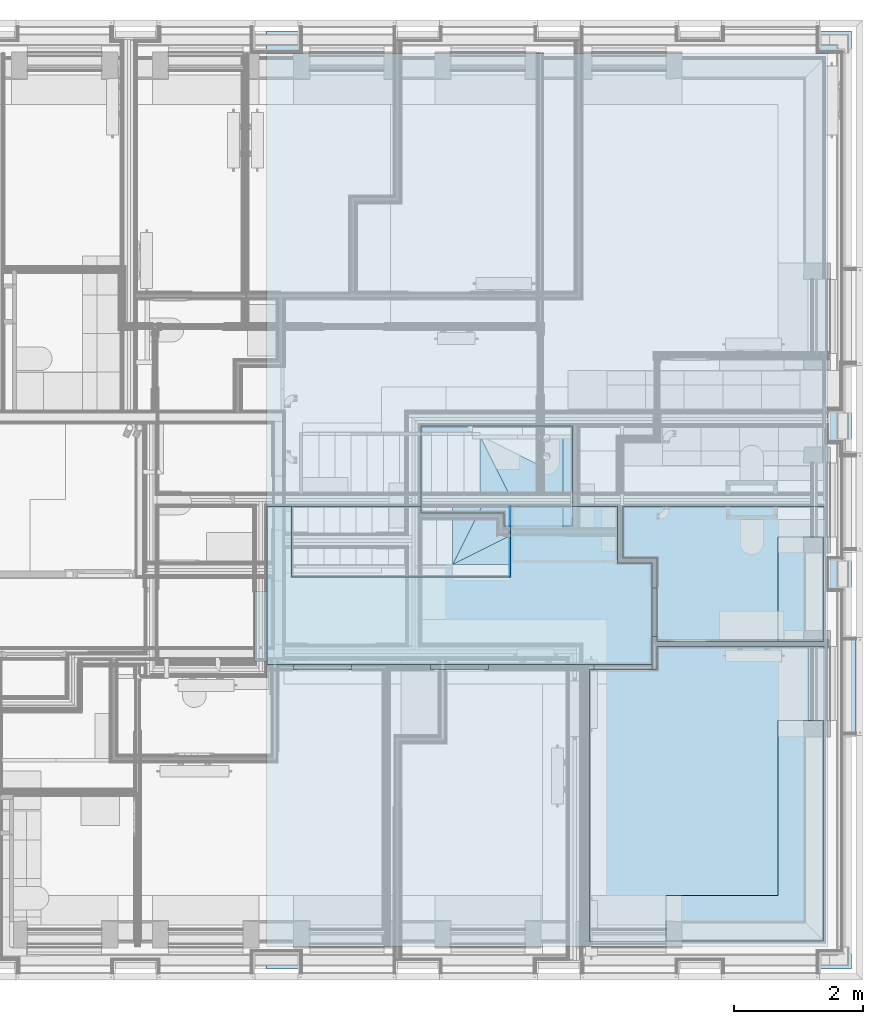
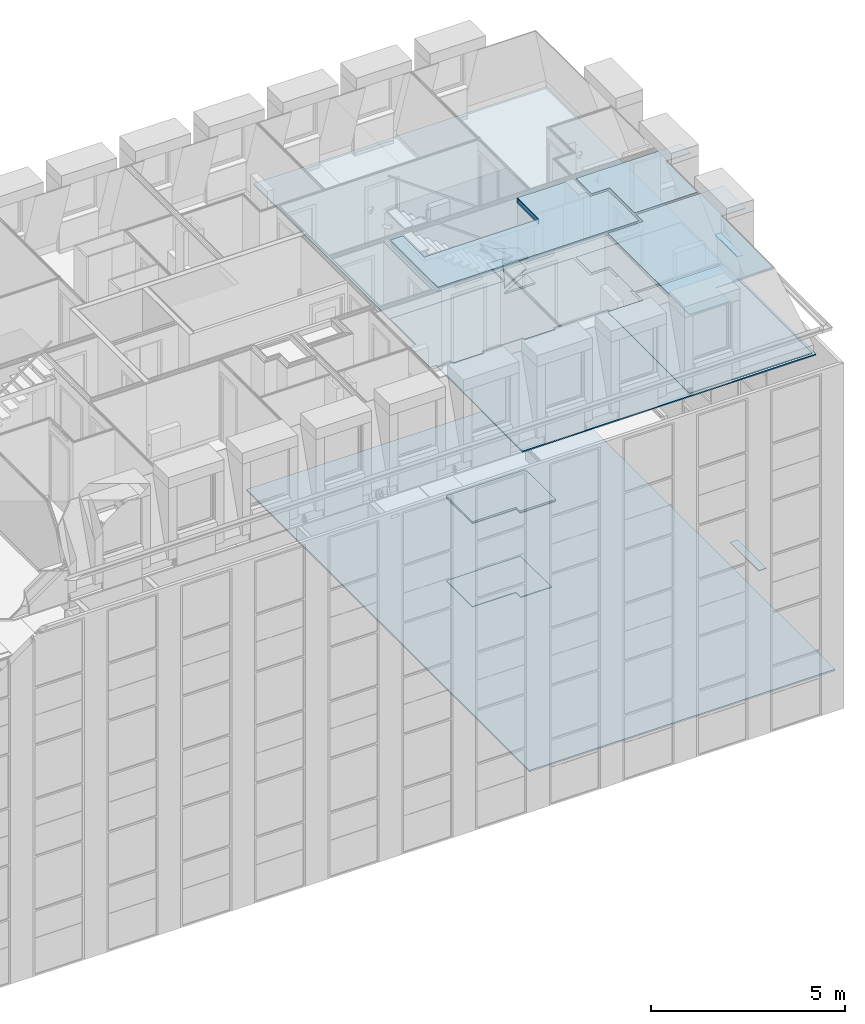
# One storey, part 78 of 169: 26 slabs.
"""IFC2X3 building model written with IfcOpenShell, lengths in metres."""

from ifc_helpers import new_model, entity, si_unit, converted_unit, derived_unit, money_unit, direction, frame, origin_with_axes, place, context, subcontext, project, spatial, faceted_brep, material, type_object, element, save


model = new_model("IFC2X3")

# Units and contexts
model_context = context("Model", 3, precision=1e-05, world=origin_with_axes(), true_north=direction((0.0, 1.0)))
body_context = subcontext(model_context, "Body", "Model", "MODEL_VIEW", scale=1.0)
ifc_project = project(units=[si_unit("LENGTHUNIT", "METRE"), si_unit("AREAUNIT", "SQUARE_METRE"), si_unit("VOLUMEUNIT", "CUBIC_METRE"), si_unit("ABSORBEDDOSEUNIT", "GRAY"), si_unit("AMOUNTOFSUBSTANCEUNIT", "MOLE"), si_unit("DOSEEQUIVALENTUNIT", "SIEVERT"), si_unit("ELECTRICCAPACITANCEUNIT", "FARAD"), si_unit("ELECTRICCHARGEUNIT", "COULOMB"), si_unit("ELECTRICCONDUCTANCEUNIT", "SIEMENS"), si_unit("ELECTRICCURRENTUNIT", "AMPERE"), si_unit("ELECTRICRESISTANCEUNIT", "OHM"), si_unit("ELECTRICVOLTAGEUNIT", "VOLT"), si_unit("ENERGYUNIT", "JOULE"), si_unit("FORCEUNIT", "NEWTON"), si_unit("FREQUENCYUNIT", "HERTZ"), si_unit("ILLUMINANCEUNIT", "LUX"), si_unit("INDUCTANCEUNIT", "HENRY"), si_unit("LUMINOUSFLUXUNIT", "LUMEN"), si_unit("LUMINOUSINTENSITYUNIT", "CANDELA"), si_unit("MAGNETICFLUXDENSITYUNIT", "TESLA"), si_unit("MAGNETICFLUXUNIT", "WEBER"), si_unit("MASSUNIT", "GRAM"), converted_unit("PLANEANGLEUNIT", "degree", entity("IfcReal", 0.0174532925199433), si_unit("PLANEANGLEUNIT", "RADIAN"), dimensions=[0, 0, 0, 0, 0, 0, 0]), si_unit("POWERUNIT", "WATT"), si_unit("PRESSUREUNIT", "PASCAL"), si_unit("RADIOACTIVITYUNIT", "BECQUEREL"), si_unit("SOLIDANGLEUNIT", "STERADIAN"), si_unit("THERMODYNAMICTEMPERATUREUNIT", "KELVIN"), si_unit("TIMEUNIT", "SECOND"), derived_unit("ACCELERATIONUNIT", [(si_unit("LENGTHUNIT", "METRE"), 1), (si_unit("TIMEUNIT", "SECOND"), -2)]), derived_unit("ANGULARVELOCITYUNIT", [(converted_unit("PLANEANGLEUNIT", "degree", entity("IfcReal", 0.0174532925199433), si_unit("PLANEANGLEUNIT", "RADIAN"), dimensions=[0, 0, 0, 0, 0, 0, 0]), 1), (si_unit("TIMEUNIT", "SECOND"), -1)]), derived_unit("CURVATUREUNIT", [(converted_unit("PLANEANGLEUNIT", "degree", entity("IfcReal", 0.0174532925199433), si_unit("PLANEANGLEUNIT", "RADIAN"), dimensions=[0, 0, 0, 0, 0, 0, 0]), 1), (si_unit("LENGTHUNIT", "METRE"), -1)]), derived_unit("DYNAMICVISCOSITYUNIT", [(si_unit("PRESSUREUNIT", "PASCAL"), 1), (si_unit("TIMEUNIT", "SECOND"), 1)]), derived_unit("HEATFLUXDENSITYUNIT", [(si_unit("POWERUNIT", "WATT"), 1), (si_unit("LENGTHUNIT", "METRE"), -2)]), derived_unit("HEATINGVALUEUNIT", [(si_unit("ENERGYUNIT", "JOULE"), 1), (si_unit("MASSUNIT", "GRAM"), -1)]), derived_unit("INTEGERCOUNTRATEUNIT", [(si_unit("TIMEUNIT", "SECOND"), -1)]), derived_unit("IONCONCENTRATIONUNIT", [(si_unit("MASSUNIT", "GRAM"), 1), (si_unit("VOLUMEUNIT", "CUBIC_METRE"), -1)]), derived_unit("ISOTHERMALMOISTURECAPACITYUNIT", [(si_unit("VOLUMEUNIT", "CUBIC_METRE"), 1), (si_unit("MASSUNIT", "GRAM"), -1)]), derived_unit("KINEMATICVISCOSITYUNIT", [(si_unit("AREAUNIT", "SQUARE_METRE"), 1), (si_unit("TIMEUNIT", "SECOND"), -1)]), derived_unit("LINEARFORCEUNIT", [(si_unit("FORCEUNIT", "NEWTON"), 1), (si_unit("LENGTHUNIT", "METRE"), -1)]), derived_unit("LINEARMOMENTUNIT", [(si_unit("FORCEUNIT", "NEWTON"), 1), (si_unit("LENGTHUNIT", "METRE"), -1)]), derived_unit("LINEARSTIFFNESSUNIT", [(si_unit("FORCEUNIT", "NEWTON"), 1), (si_unit("LENGTHUNIT", "METRE"), -1)]), derived_unit("LINEARVELOCITYUNIT", [(si_unit("LENGTHUNIT", "METRE"), 1), (si_unit("TIMEUNIT", "SECOND"), -1)]), derived_unit("LUMINOUSINTENSITYDISTRIBUTIONUNIT", [(si_unit("LUMINOUSINTENSITYUNIT", "CANDELA"), 1), (si_unit("LUMINOUSFLUXUNIT", "LUMEN"), -1)]), derived_unit("MASSDENSITYUNIT", [(si_unit("MASSUNIT", "GRAM"), 1), (si_unit("VOLUMEUNIT", "CUBIC_METRE"), -1)]), derived_unit("MASSFLOWRATEUNIT", [(si_unit("MASSUNIT", "GRAM"), 1), (si_unit("TIMEUNIT", "SECOND"), -1)]), derived_unit("MASSPERLENGTHUNIT", [(si_unit("MASSUNIT", "GRAM"), 1), (si_unit("LENGTHUNIT", "METRE"), -1)]), derived_unit("MODULUSOFELASTICITYUNIT", [(si_unit("FORCEUNIT", "NEWTON"), 1), (si_unit("AREAUNIT", "SQUARE_METRE"), -1)]), derived_unit("MODULUSOFLINEARSUBGRADEREACTIONUNIT", [(si_unit("FORCEUNIT", "NEWTON"), 1), (si_unit("LENGTHUNIT", "METRE"), -2)]), derived_unit("MODULUSOFROTATIONALSUBGRADEREACTIONUNIT", [(si_unit("FORCEUNIT", "NEWTON"), 1), (si_unit("LENGTHUNIT", "METRE"), 1)]), derived_unit("MODULUSOFSUBGRADEREACTIONUNIT", [(si_unit("FORCEUNIT", "NEWTON"), 1), (si_unit("VOLUMEUNIT", "CUBIC_METRE"), -1)]), derived_unit("MOISTUREDIFFUSIVITYUNIT", [(si_unit("VOLUMEUNIT", "CUBIC_METRE"), 1), (si_unit("TIMEUNIT", "SECOND"), -1)]), derived_unit("MOLECULARWEIGHTUNIT", [(si_unit("MASSUNIT", "GRAM"), 1), (si_unit("AMOUNTOFSUBSTANCEUNIT", "MOLE"), -1)]), derived_unit("PLANARFORCEUNIT", [(si_unit("FORCEUNIT", "NEWTON"), 1), (si_unit("LENGTHUNIT", "METRE"), -2)]), derived_unit("ROTATIONALFREQUENCYUNIT", [(si_unit("TIMEUNIT", "SECOND"), -1)]), derived_unit("ROTATIONALMASSUNIT", [(si_unit("MASSUNIT", "GRAM"), 1), (si_unit("LENGTHUNIT", "METRE"), 2)]), derived_unit("ROTATIONALSTIFFNESSUNIT", [(si_unit("FORCEUNIT", "NEWTON"), 1), (si_unit("LENGTHUNIT", "METRE"), 1), (converted_unit("PLANEANGLEUNIT", "degree", entity("IfcReal", 0.0174532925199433), si_unit("PLANEANGLEUNIT", "RADIAN"), dimensions=[0, 0, 0, 0, 0, 0, 0]), -1)]), derived_unit("SECTIONAREAINTEGRALUNIT", [(si_unit("LENGTHUNIT", "METRE"), 5)]), derived_unit("SECTIONMODULUSUNIT", [(si_unit("LENGTHUNIT", "METRE"), 3)]), derived_unit("SHEARMODULUSUNIT", [(si_unit("FORCEUNIT", "NEWTON"), 1), (si_unit("AREAUNIT", "SQUARE_METRE"), -1)]), derived_unit("SOUNDPOWERUNIT", [(si_unit("ENERGYUNIT", "JOULE"), 1), (si_unit("TIMEUNIT", "SECOND"), -1)]), derived_unit("SPECIFICHEATCAPACITYUNIT", [(si_unit("FORCEUNIT", "NEWTON"), 1), (si_unit("MASSUNIT", "GRAM"), -1), (si_unit("THERMODYNAMICTEMPERATUREUNIT", "KELVIN"), -1)]), derived_unit("TEMPERATUREGRADIENTUNIT", [(si_unit("THERMODYNAMICTEMPERATUREUNIT", "KELVIN"), 1), (si_unit("LENGTHUNIT", "METRE"), -1)]), derived_unit("THERMALADMITTANCEUNIT", [(si_unit("POWERUNIT", "WATT"), 1), (si_unit("AREAUNIT", "SQUARE_METRE"), -1), (si_unit("THERMODYNAMICTEMPERATUREUNIT", "KELVIN"), -1)]), derived_unit("THERMALCONDUCTANCEUNIT", [(si_unit("POWERUNIT", "WATT"), 1), (si_unit("LENGTHUNIT", "METRE"), -1), (si_unit("THERMODYNAMICTEMPERATUREUNIT", "KELVIN"), -1)]), derived_unit("THERMALEXPANSIONCOEFFICIENTUNIT", [(si_unit("THERMODYNAMICTEMPERATUREUNIT", "KELVIN"), -1)]), derived_unit("THERMALRESISTANCEUNIT", [(si_unit("AREAUNIT", "SQUARE_METRE"), 1), (si_unit("POWERUNIT", "WATT"), -1)]), derived_unit("THERMALTRANSMITTANCEUNIT", [(si_unit("POWERUNIT", "WATT"), 1), (si_unit("AREAUNIT", "SQUARE_METRE"), -1), (si_unit("THERMODYNAMICTEMPERATUREUNIT", "KELVIN"), -1)]), derived_unit("TORQUEUNIT", [(si_unit("FORCEUNIT", "NEWTON"), 1), (si_unit("LENGTHUNIT", "METRE"), 1)]), derived_unit("VAPORPERMEABILITYUNIT", [(si_unit("MASSUNIT", "GRAM"), 1), (si_unit("TIMEUNIT", "SECOND"), -1)]), derived_unit("VOLUMETRICFLOWRATEUNIT", [(si_unit("VOLUMEUNIT", "CUBIC_METRE"), 1), (si_unit("TIMEUNIT", "SECOND"), -1)]), derived_unit("WARPINGCONSTANTUNIT", [(si_unit("LENGTHUNIT", "METRE"), 6)]), derived_unit("WARPINGMOMENTUNIT", [(si_unit("FORCEUNIT", "NEWTON"), 1), (si_unit("LENGTHUNIT", "METRE"), 2)]), money_unit("GBP")], contexts=[model_context])

# Site, building, storey
site_placement = place(None, origin_with_axes())
site = spatial("IfcSite", under=ifc_project, at=site_placement, Name="Site", CompositionType="ELEMENT")
building_placement = place(site_placement, origin_with_axes())
building = spatial("IfcBuilding", under=site, at=building_placement, Name="Building01", CompositionType="ELEMENT")
storey_placement = place(building_placement, frame((0.0, 0.0, 5.15), z_axis=(0.0, 0.0, 1.0), x_axis=(1.0, 0.0, 0.0)))
storey = spatial("IfcBuildingStorey", under=building, at=storey_placement, Name="1F", CompositionType="ELEMENT", Elevation=5.15)

# Slabs
ifc_material_1 = material(Name="A_BSUK_InternalFinishes_FloorScreed")
slab_type_1 = type_object("IfcSlabType", Name="A-FloorsSlabs A_BSUK_Slabs", PredefinedType="FLOOR")
placement = place(storey_placement, frame((0.0, 0.0, -5.15), z_axis=(0.0, 0.0, 1.0), x_axis=(1.0, 0.0, 0.0)))
element("IfcSlab", 1, at=placement, inside=storey, type_object=slab_type_1, material=ifc_material_1, Name="A-FloorsSlabs A_BSUK_Slabs", ObjectType="CompoundSlabLeaf", context=body_context, shape_type="Brep", body=[
    faceted_brep([(17.73, 14.73, 5.1), (17.73, 14.73, 5.15), (26.81, 14.73, 5.15), (26.81, 14.73, 5.1), (17.73, 0.17, 5.1), (17.73, 0.17, 5.15), (26.81, 0.17, 5.1), (26.81, 0.17, 5.15)], [[[0, 1, 2, 3]], [[4, 5, 1, 0]], [[6, 7, 5, 4]], [[3, 2, 7, 6]], [[1, 5, 7, 2]], [[3, 6, 4, 0]]]),
])
ifc_material_2 = material(Name="A_BSUK_Ceramic_FloorTiles")
element("IfcSlab", 2, at=placement, inside=storey, type_object=slab_type_1, material=ifc_material_2, Name="A-FloorsSlabs A_BSUK_Slabs", ObjectType="CompoundSlabLeaf", context=body_context, shape_type="Brep", body=[
    faceted_brep([(20.122661, 8.595, 5.153), (20.122661, 8.595, 5.165), (22.326661, 8.595, 5.165), (22.326661, 8.595, 5.153), (20.122661, 7.25, 5.153), (20.122661, 7.25, 5.165), (21.417661, 7.25, 5.153), (21.417661, 7.25, 5.165), (21.417661, 7.0, 5.153), (21.417661, 7.0, 5.165), (22.326661, 7.0, 5.153), (22.326661, 7.0, 5.165)], [[[0, 1, 2, 3]], [[4, 5, 1, 0]], [[6, 7, 5, 4]], [[8, 9, 7, 6]], [[10, 11, 9, 8]], [[3, 2, 11, 10]], [[1, 5, 7, 9, 11, 2]], [[3, 10, 8, 6, 4, 0]]]),
])
ifc_material_3 = material(Name="A_BSUK_CeilingSoffitFinishes_Suspended")
element("IfcSlab", 3, at=placement, inside=storey, type_object=slab_type_1, material=ifc_material_3, Name="A-FloorsSlabs A_BSUK_Slabs", ObjectType="CompoundSlabLeaf", context=body_context, shape_type="Brep", body=[
    faceted_brep([(20.122661, 8.595, 7.765), (20.122661, 8.595, 7.78), (22.476661, 8.595, 7.78), (22.476661, 8.595, 7.765), (20.122661, 7.25, 7.765), (20.122661, 7.25, 7.78), (21.417661, 7.25, 7.765), (21.417661, 7.25, 7.78), (21.417661, 7.05, 7.765), (21.417661, 7.05, 7.78), (22.476661, 7.05, 7.765), (22.476661, 7.05, 7.78)], [[[0, 1, 2, 3]], [[4, 5, 1, 0]], [[6, 7, 5, 4]], [[8, 9, 7, 6]], [[10, 11, 9, 8]], [[3, 2, 11, 10]], [[1, 5, 7, 9, 11, 2]], [[3, 10, 8, 6, 4, 0]]]),
])
ifc_material_4 = material(Name="A_BSUK_Timber_Miscellaneous")
element("IfcSlab", 4, at=placement, inside=storey, type_object=slab_type_1, material=ifc_material_4, Name="A-FloorsSlabs A_BSUK_Slabs", ObjectType="CompoundSlabLeaf", context=body_context, shape_type="Brep", body=[
    faceted_brep([(26.88, 3.82218, 6.065), (26.88, 3.82218, 6.09), (26.646998, 3.82218, 6.09), (26.646998, 3.82218, 6.065), (26.88, 5.29218, 6.065), (26.88, 5.29218, 6.09), (26.647, 5.29218, 6.065), (26.647, 5.29218, 6.09)], [[[0, 1, 2, 3]], [[4, 5, 1, 0]], [[6, 7, 5, 4]], [[3, 2, 7, 6]], [[1, 5, 7, 2]], [[3, 6, 4, 0]]]),
])
element("IfcSlab", 5, at=placement, inside=storey, type_object=slab_type_1, material=ifc_material_3, Name="A-FloorsSlabs A_BSUK_Slabs", ObjectType="CompoundSlabLeaf", context=body_context, shape_type="Brep", body=[
    faceted_brep([(23.79, 5.174915, 17.423), (23.79, 5.174915, 17.438), (26.380061, 5.174915, 17.438), (26.380061, 5.174915, 17.423), (23.79, 4.817, 17.423), (23.79, 4.817, 17.438), (22.740024, 4.817, 17.423), (22.740024, 4.817, 17.438), (22.740024, 0.599939, 17.423), (22.740024, 0.599939, 17.438), (23.930024, 0.599939, 17.423), (23.930024, 0.599939, 17.438), (23.930024, 1.312402, 17.423), (23.930024, 1.312402, 17.438), (25.667598, 1.312402, 17.423), (25.667598, 1.312402, 17.438), (25.667598, 4.024964, 17.423), (25.667598, 4.024964, 17.438), (26.380061, 4.024964, 17.423), (26.380061, 4.024964, 17.438)], [[[0, 1, 2, 3]], [[4, 5, 1, 0]], [[6, 7, 5, 4]], [[8, 9, 7, 6]], [[10, 11, 9, 8]], [[12, 13, 11, 10]], [[14, 15, 13, 12]], [[16, 17, 15, 14]], [[18, 19, 17, 16]], [[3, 2, 19, 18]], [[1, 5, 7, 9, 11, 13, 15, 17, 19, 2]], [[3, 18, 16, 14, 12, 10, 8, 6, 4, 0]]]),
])
element("IfcSlab", 6, at=placement, inside=storey, type_object=slab_type_1, material=ifc_material_3, Name="A-FloorsSlabs A_BSUK_Slabs", ObjectType="CompoundSlabLeaf", context=body_context, shape_type="Brep", body=[
    faceted_brep([(17.73844, 7.349915, 17.423), (17.73844, 7.349915, 17.438), (18.11844, 7.349915, 17.438), (18.11844, 7.349915, 17.423), (17.73844, 4.897, 17.423), (17.73844, 4.897, 17.438), (23.71, 4.897, 17.423), (23.71, 4.897, 17.438), (23.71, 6.470085, 17.423), (23.71, 6.470085, 17.438), (23.178821, 6.470085, 17.423), (23.178821, 6.470085, 17.438), (23.178821, 7.349915, 17.423), (23.178821, 7.349915, 17.438), (21.51844, 7.349915, 17.423), (21.51844, 7.349915, 17.438), (21.51844, 6.252627, 17.423), (21.51844, 6.252627, 17.438), (18.11844, 6.252627, 17.423), (18.11844, 6.252627, 17.438)], [[[0, 1, 2, 3]], [[4, 5, 1, 0]], [[6, 7, 5, 4]], [[8, 9, 7, 6]], [[10, 11, 9, 8]], [[12, 13, 11, 10]], [[14, 15, 13, 12]], [[16, 17, 15, 14]], [[18, 19, 17, 16]], [[3, 2, 19, 18]], [[1, 5, 7, 9, 11, 13, 15, 17, 19, 2]], [[3, 18, 16, 14, 12, 10, 8, 6, 4, 0]]]),
])
element("IfcSlab", 7, at=placement, inside=storey, type_object=slab_type_1, material=ifc_material_3, Name="A-FloorsSlabs A_BSUK_Slabs", ObjectType="CompoundSlabLeaf", context=body_context, shape_type="Brep", body=[
    faceted_brep([(23.258821, 7.349915, 17.423), (23.258821, 7.349915, 17.438), (26.380061, 7.349915, 17.438), (26.380061, 7.349915, 17.423), (23.258821, 6.550085, 17.423), (23.258821, 6.550085, 17.438), (23.79, 6.550085, 17.423), (23.79, 6.550085, 17.438), (23.79, 5.254915, 17.423), (23.79, 5.254915, 17.438), (25.667598, 5.254915, 17.423), (25.667598, 5.254915, 17.438), (25.667598, 6.874964, 17.423), (25.667598, 6.874964, 17.438), (26.380061, 6.874964, 17.423), (26.380061, 6.874964, 17.438)], [[[0, 1, 2, 3]], [[4, 5, 1, 0]], [[6, 7, 5, 4]], [[8, 9, 7, 6]], [[10, 11, 9, 8]], [[12, 13, 11, 10]], [[14, 15, 13, 12]], [[3, 2, 15, 14]], [[1, 5, 7, 9, 11, 13, 15, 2]], [[3, 14, 12, 10, 8, 6, 4, 0]]]),
])
ifc_material_5 = material(Name="A_BSUK_ExpandedPolystyreneBoards")
element("IfcSlab", 8, at=placement, inside=storey, type_object=slab_type_1, material=ifc_material_5, Name="A-FloorsSlabs A_BSUK_Slabs", ObjectType="CompoundSlabLeaf", context=body_context, shape_type="Brep", body=[
    faceted_brep([(23.79, 5.174915, 14.965), (23.79, 5.174915, 14.968), (26.3762, 5.174915, 14.968), (26.3762, 5.174915, 14.965), (23.79, 4.817, 14.965), (23.79, 4.817, 14.968), (22.740024, 4.817, 14.965), (22.740024, 4.817, 14.968), (22.740024, 0.6038, 14.965), (22.740024, 0.6038, 14.968), (23.930024, 0.6038, 14.965), (23.930024, 0.6038, 14.968), (26.3762, 0.6038, 14.965), (26.3762, 0.6038, 14.968), (26.3762, 4.024964, 14.965), (26.3762, 4.024964, 14.968)], [[[0, 1, 2, 3]], [[4, 5, 1, 0]], [[6, 7, 5, 4]], [[8, 9, 7, 6]], [[10, 11, 9, 8]], [[12, 13, 11, 10]], [[14, 15, 13, 12]], [[3, 2, 15, 14]], [[1, 5, 7, 9, 11, 13, 15, 2]], [[3, 14, 12, 10, 8, 6, 4, 0]]]),
])
element("IfcSlab", 9, at=placement, inside=storey, type_object=slab_type_1, material=ifc_material_5, Name="A-FloorsSlabs A_BSUK_Slabs", ObjectType="CompoundSlabLeaf", context=body_context, shape_type="Brep", body=[
    faceted_brep([(17.73844, 7.349915, 14.965), (17.73844, 7.349915, 14.968), (18.11844, 7.349915, 14.968), (18.11844, 7.349915, 14.965), (17.73844, 6.028, 14.965), (17.73844, 6.028, 14.968), (17.53844, 6.028, 14.965), (17.53844, 6.028, 14.968), (17.53844, 4.944, 14.965), (17.53844, 4.944, 14.968), (17.73844, 4.944, 14.965), (17.73844, 4.944, 14.968), (17.73844, 4.897, 14.965), (17.73844, 4.897, 14.968), (18.149976, 4.897, 14.965), (18.149976, 4.897, 14.968), (18.149976, 4.817, 14.965), (18.149976, 4.817, 14.968), (19.049976, 4.817, 14.965), (19.049976, 4.817, 14.968), (19.049976, 4.897, 14.965), (19.049976, 4.897, 14.968), (20.269976, 4.897, 14.965), (20.269976, 4.897, 14.968), (20.269976, 4.817, 14.965), (20.269976, 4.817, 14.968), (21.169976, 4.817, 14.965), (21.169976, 4.817, 14.968), (21.169976, 4.897, 14.965), (21.169976, 4.897, 14.968), (22.81, 4.897, 14.965), (22.81, 4.897, 14.968), (22.81, 4.817, 14.965), (22.81, 4.817, 14.968), (23.71, 4.817, 14.965), (23.71, 4.817, 14.968), (23.71, 4.897, 14.965), (23.71, 4.897, 14.968), (23.71, 5.330939, 14.965), (23.71, 5.330939, 14.968), (23.79, 5.330939, 14.965), (23.79, 5.330939, 14.968), (23.79, 6.080939, 14.965), (23.79, 6.080939, 14.968), (23.71, 6.080939, 14.965), (23.71, 6.080939, 14.968), (23.71, 6.470085, 14.965), (23.71, 6.470085, 14.968), (23.178821, 6.470085, 14.965), (23.178821, 6.470085, 14.968), (23.178821, 7.349915, 14.965), (23.178821, 7.349915, 14.968), (21.51844, 7.349915, 14.965), (21.51844, 7.349915, 14.968)], [[[0, 1, 2, 3]], [[4, 5, 1, 0]], [[6, 7, 5, 4]], [[8, 9, 7, 6]], [[10, 11, 9, 8]], [[12, 13, 11, 10]], [[14, 15, 13, 12]], [[16, 17, 15, 14]], [[18, 19, 17, 16]], [[20, 21, 19, 18]], [[22, 23, 21, 20]], [[24, 25, 23, 22]], [[26, 27, 25, 24]], [[28, 29, 27, 26]], [[30, 31, 29, 28]], [[32, 33, 31, 30]], [[34, 35, 33, 32]], [[36, 37, 35, 34]], [[38, 39, 37, 36]], [[40, 41, 39, 38]], [[42, 43, 41, 40]], [[44, 45, 43, 42]], [[46, 47, 45, 44]], [[48, 49, 47, 46]], [[50, 51, 49, 48]], [[52, 53, 51, 50]], [[3, 2, 53, 52]], [[1, 5, 7, 9, 11, 13, 15, 17, 19, 21, 23, 25, 27, 29, 31, 33, 35, 37, 39, 41, 43, 45, 47, 49, 51, 53, 2]], [[3, 52, 50, 48, 46, 44, 42, 40, 38, 36, 34, 32, 30, 28, 26, 24, 22, 20, 18, 16, 14, 12, 10, 8, 6, 4, 0]]]),
])
element("IfcSlab", 10, at=placement, inside=storey, type_object=slab_type_1, material=ifc_material_5, Name="A-FloorsSlabs A_BSUK_Slabs", ObjectType="CompoundSlabLeaf", context=body_context, shape_type="Brep", body=[
    faceted_brep([(23.258821, 7.349915, 14.965), (23.258821, 7.349915, 14.968), (26.3762, 7.349915, 14.968), (26.3762, 7.349915, 14.965), (23.258821, 6.550085, 14.965), (23.258821, 6.550085, 14.968), (23.79, 6.550085, 14.965), (23.79, 6.550085, 14.968), (23.79, 5.254915, 14.965), (23.79, 5.254915, 14.968), (26.3762, 5.254915, 14.965), (26.3762, 5.254915, 14.968), (26.3762, 6.874964, 14.965), (26.3762, 6.874964, 14.968)], [[[0, 1, 2, 3]], [[4, 5, 1, 0]], [[6, 7, 5, 4]], [[8, 9, 7, 6]], [[10, 11, 9, 8]], [[12, 13, 11, 10]], [[3, 2, 13, 12]], [[1, 5, 7, 9, 11, 13, 2]], [[3, 12, 10, 8, 6, 4, 0]]]),
])
element("IfcSlab", 11, at=placement, inside=storey, type_object=slab_type_1, material=ifc_material_4, Name="A-FloorsSlabs A_BSUK_Slabs", ObjectType="CompoundSlabLeaf", context=body_context, shape_type="Brep", body=[
    faceted_brep([(26.304661, 4.024964, 15.98), (26.304661, 4.024964, 16.005), (26.130059, 4.024964, 16.005), (26.130059, 4.024964, 15.98), (26.304661, 5.174964, 15.98), (26.304661, 5.174964, 16.005), (26.130061, 5.174964, 15.98), (26.130061, 5.174964, 16.005)], [[[0, 1, 2, 3]], [[4, 5, 1, 0]], [[6, 7, 5, 4]], [[3, 2, 7, 6]], [[1, 5, 7, 2]], [[3, 6, 4, 0]]]),
])
element("IfcSlab", 12, at=placement, inside=storey, type_object=slab_type_1, material=ifc_material_3, Name="A-FloorsSlabs A_BSUK_Slabs", ObjectType="CompoundSlabLeaf", context=body_context, shape_type="Brep", body=[
    faceted_brep([(23.79, 5.174915, 17.438), (23.79, 5.174915, 17.453), (26.380061, 5.174915, 17.453), (26.380061, 5.174915, 17.438), (23.79, 4.817, 17.438), (23.79, 4.817, 17.453), (22.740024, 4.817, 17.438), (22.740024, 4.817, 17.453), (22.740024, 0.599939, 17.438), (22.740024, 0.599939, 17.453), (23.930024, 0.599939, 17.438), (23.930024, 0.599939, 17.453), (23.930024, 1.312402, 17.438), (23.930024, 1.312402, 17.453), (25.667598, 1.312402, 17.438), (25.667598, 1.312402, 17.453), (25.667598, 4.024964, 17.438), (25.667598, 4.024964, 17.453), (26.380061, 4.024964, 17.438), (26.380061, 4.024964, 17.453)], [[[0, 1, 2, 3]], [[4, 5, 1, 0]], [[6, 7, 5, 4]], [[8, 9, 7, 6]], [[10, 11, 9, 8]], [[12, 13, 11, 10]], [[14, 15, 13, 12]], [[16, 17, 15, 14]], [[18, 19, 17, 16]], [[3, 2, 19, 18]], [[1, 5, 7, 9, 11, 13, 15, 17, 19, 2]], [[3, 18, 16, 14, 12, 10, 8, 6, 4, 0]]]),
])
element("IfcSlab", 13, at=placement, inside=storey, type_object=slab_type_1, material=ifc_material_3, Name="A-FloorsSlabs A_BSUK_Slabs", ObjectType="CompoundSlabLeaf", context=body_context, shape_type="Brep", body=[
    faceted_brep([(17.73844, 7.349915, 17.438), (17.73844, 7.349915, 17.453), (18.11844, 7.349915, 17.453), (18.11844, 7.349915, 17.438), (17.73844, 4.897, 17.438), (17.73844, 4.897, 17.453), (23.71, 4.897, 17.438), (23.71, 4.897, 17.453), (23.71, 6.470085, 17.438), (23.71, 6.470085, 17.453), (23.178821, 6.470085, 17.438), (23.178821, 6.470085, 17.453), (23.178821, 7.349915, 17.438), (23.178821, 7.349915, 17.453), (21.51844, 7.349915, 17.438), (21.51844, 7.349915, 17.453), (21.51844, 6.252627, 17.438), (21.51844, 6.252627, 17.453), (18.11844, 6.252627, 17.438), (18.11844, 6.252627, 17.453)], [[[0, 1, 2, 3]], [[4, 5, 1, 0]], [[6, 7, 5, 4]], [[8, 9, 7, 6]], [[10, 11, 9, 8]], [[12, 13, 11, 10]], [[14, 15, 13, 12]], [[16, 17, 15, 14]], [[18, 19, 17, 16]], [[3, 2, 19, 18]], [[1, 5, 7, 9, 11, 13, 15, 17, 19, 2]], [[3, 18, 16, 14, 12, 10, 8, 6, 4, 0]]]),
])
element("IfcSlab", 14, at=placement, inside=storey, type_object=slab_type_1, material=ifc_material_3, Name="A-FloorsSlabs A_BSUK_Slabs", ObjectType="CompoundSlabLeaf", context=body_context, shape_type="Brep", body=[
    faceted_brep([(23.258821, 7.349915, 17.438), (23.258821, 7.349915, 17.453), (26.380061, 7.349915, 17.453), (26.380061, 7.349915, 17.438), (23.258821, 6.550085, 17.438), (23.258821, 6.550085, 17.453), (23.79, 6.550085, 17.438), (23.79, 6.550085, 17.453), (23.79, 5.254915, 17.438), (23.79, 5.254915, 17.453), (25.667598, 5.254915, 17.438), (25.667598, 5.254915, 17.453), (25.667598, 6.874964, 17.438), (25.667598, 6.874964, 17.453), (26.380061, 6.874964, 17.438), (26.380061, 6.874964, 17.453)], [[[0, 1, 2, 3]], [[4, 5, 1, 0]], [[6, 7, 5, 4]], [[8, 9, 7, 6]], [[10, 11, 9, 8]], [[12, 13, 11, 10]], [[14, 15, 13, 12]], [[3, 2, 15, 14]], [[1, 5, 7, 9, 11, 13, 15, 2]], [[3, 14, 12, 10, 8, 6, 4, 0]]]),
])
ifc_material_6 = material(Name="A_BSUK_Slabs")
element("IfcSlab", 15, at=placement, inside=storey, type_object=slab_type_1, material=ifc_material_6, Name="A-FloorsSlabs A_BSUK_Slabs", ObjectType="CompoundSlabLeaf", context=body_context, shape_type="Brep", body=[
    faceted_brep([(20.61844, 6.449939, 15.65), (20.61844, 6.449939, 15.7), (20.61844, 7.349939, 15.7), (20.61844, 7.349939, 15.65), (21.06844, 7.349939, 15.65), (21.06844, 7.349939, 15.7)], [[[0, 1, 2, 3]], [[4, 5, 1, 0]], [[3, 2, 5, 4]], [[1, 5, 2]], [[3, 4, 0]]]),
])
element("IfcSlab", 16, at=placement, inside=storey, type_object=slab_type_1, material=ifc_material_6, Name="A-FloorsSlabs A_BSUK_Slabs", ObjectType="CompoundSlabLeaf", context=body_context, shape_type="Brep", body=[
    faceted_brep([(20.61844, 6.449939, 15.47), (20.61844, 6.449939, 15.52), (21.06844, 7.349939, 15.52), (21.06844, 7.349939, 15.47), (21.51844, 6.899939, 15.47), (21.51844, 6.899939, 15.52), (21.51844, 7.349939, 15.47), (21.51844, 7.349939, 15.52)], [[[0, 1, 2, 3]], [[4, 5, 1, 0]], [[6, 7, 5, 4]], [[3, 2, 7, 6]], [[1, 5, 7, 2]], [[3, 6, 4, 0]]]),
])
element("IfcSlab", 17, at=placement, inside=storey, type_object=slab_type_1, material=ifc_material_6, Name="A-FloorsSlabs A_BSUK_Slabs", ObjectType="CompoundSlabLeaf", context=body_context, shape_type="Brep", body=[
    faceted_brep([(20.61844, 6.449939, 15.29), (20.61844, 6.449939, 15.34), (21.51844, 6.899939, 15.34), (21.51844, 6.899939, 15.29), (21.51844, 6.449939, 15.29), (21.51844, 6.449939, 15.34)], [[[0, 1, 2, 3]], [[4, 5, 1, 0]], [[3, 2, 5, 4]], [[1, 5, 2]], [[3, 4, 0]]]),
])
element("IfcSlab", 18, at=placement, inside=storey, type_object=slab_type_1, material=ifc_material_6, Name="A-FloorsSlabs A_BSUK_Slabs", ObjectType="CompoundSlabLeaf", context=body_context, shape_type="Brep", body=[
    faceted_brep([(21.039976, 7.549915, 15.47), (21.039976, 7.549915, 15.52), (21.039976, 8.449915, 15.52), (21.039976, 8.449915, 15.47), (21.489976, 7.549915, 15.47), (21.489976, 7.549915, 15.52)], [[[0, 1, 2, 3]], [[4, 5, 1, 0]], [[3, 2, 5, 4]], [[1, 5, 2]], [[3, 4, 0]]]),
])
element("IfcSlab", 19, at=placement, inside=storey, type_object=slab_type_1, material=ifc_material_6, Name="A-FloorsSlabs A_BSUK_Slabs", ObjectType="CompoundSlabLeaf", context=body_context, shape_type="Brep", body=[
    faceted_brep([(21.489976, 7.549915, 15.29), (21.489976, 7.549915, 15.34), (21.039976, 8.449915, 15.34), (21.039976, 8.449915, 15.29), (21.939976, 7.549915, 15.29), (21.939976, 7.549915, 15.34), (21.939976, 7.999915, 15.29), (21.939976, 7.999915, 15.34)], [[[0, 1, 2, 3]], [[4, 5, 1, 0]], [[6, 7, 5, 4]], [[3, 2, 7, 6]], [[1, 5, 7, 2]], [[3, 6, 4, 0]]]),
])
element("IfcSlab", 20, at=placement, inside=storey, type_object=slab_type_1, material=ifc_material_3, Name="A-FloorsSlabs A_BSUK_Slabs", ObjectType="CompoundSlabLeaf", context=body_context, shape_type="Brep", body=[
    faceted_brep([(17.73844, 7.349915, 17.308), (17.73844, 7.349915, 17.323), (18.11844, 7.349915, 17.323), (18.11844, 7.349915, 17.308), (17.73844, 4.897, 17.308), (17.73844, 4.897, 17.323), (23.71, 4.897, 17.308), (23.71, 4.897, 17.323), (23.71, 6.470085, 17.308), (23.71, 6.470085, 17.323), (23.178821, 6.470085, 17.308), (23.178821, 6.470085, 17.323), (23.178821, 7.349915, 17.308), (23.178821, 7.349915, 17.323), (21.51844, 7.349915, 17.308), (21.51844, 7.349915, 17.323), (21.51844, 6.252627, 17.308), (21.51844, 6.252627, 17.323), (18.11844, 6.252627, 17.308), (18.11844, 6.252627, 17.323)], [[[0, 1, 2, 3]], [[4, 5, 1, 0]], [[6, 7, 5, 4]], [[8, 9, 7, 6]], [[10, 11, 9, 8]], [[12, 13, 11, 10]], [[14, 15, 13, 12]], [[16, 17, 15, 14]], [[18, 19, 17, 16]], [[3, 2, 19, 18]], [[1, 5, 7, 9, 11, 13, 15, 17, 19, 2]], [[3, 18, 16, 14, 12, 10, 8, 6, 4, 0]]]),
])
element("IfcSlab", 21, at=placement, inside=storey, type_object=slab_type_1, material=ifc_material_3, Name="A-FloorsSlabs A_BSUK_Slabs", ObjectType="CompoundSlabLeaf", context=body_context, shape_type="Brep", body=[
    faceted_brep([(21.51844, 7.349939, 17.308), (21.50344, 7.349939, 17.308), (21.50344, 7.349939, 17.453), (21.51844, 7.349939, 17.453), (21.51844, 6.252627, 17.308), (21.50344, 6.252627, 17.308), (21.51844, 6.252627, 17.453), (21.50344, 6.252627, 17.453)], [[[0, 1, 2, 3]], [[4, 5, 1, 0]], [[6, 7, 5, 4]], [[3, 2, 7, 6]], [[1, 5, 7, 2]], [[3, 6, 4, 0]]]),
])
slab_type_2 = type_object("IfcSlabType", Name="A-Finishes A_BSUK_Ceramic_FloorTiles", PredefinedType="FLOOR")
element("IfcSlab", 22, at=placement, inside=storey, type_object=slab_type_2, material=ifc_material_2, Name="A-Finishes A_BSUK_Ceramic_FloorTiles", ObjectType="CompoundSlabLeaf", context=body_context, shape_type="Brep", body=[
    faceted_brep([(23.258821, 7.349915, 14.968), (23.258821, 7.349915, 14.98), (26.3762, 7.349915, 14.98), (26.3762, 7.349915, 14.968), (23.258821, 6.550085, 14.968), (23.258821, 6.550085, 14.98), (23.79, 6.550085, 14.968), (23.79, 6.550085, 14.98), (23.79, 5.254915, 14.968), (23.79, 5.254915, 14.98), (26.3762, 5.254915, 14.968), (26.3762, 5.254915, 14.98), (26.3762, 6.874964, 14.968), (26.3762, 6.874964, 14.98)], [[[0, 1, 2, 3]], [[4, 5, 1, 0]], [[6, 7, 5, 4]], [[8, 9, 7, 6]], [[10, 11, 9, 8]], [[12, 13, 11, 10]], [[3, 2, 13, 12]], [[1, 5, 7, 9, 11, 13, 2]], [[3, 12, 10, 8, 6, 4, 0]]]),
])
slab_type_3 = type_object("IfcSlabType", Name="A-FloorsSlabs A_BSUK_ExpandedPolystyreneBoards", PredefinedType="FLOOR")
element("IfcSlab", 23, at=placement, inside=storey, type_object=slab_type_3, material=ifc_material_5, Name="A-FloorsSlabs A_BSUK_ExpandedPolystyreneBoards", ObjectType="CompoundSlabLeaf", context=body_context, shape_type="Brep", body=[
    faceted_brep([(20.122661, 8.595, 7.78), (20.122661, 8.595, 7.83), (22.476661, 8.595, 7.83), (22.476661, 8.595, 7.78), (20.122661, 7.25, 7.78), (20.122661, 7.25, 7.83), (21.417661, 7.25, 7.78), (21.417661, 7.25, 7.83), (21.417661, 7.05, 7.78), (21.417661, 7.05, 7.83), (22.476661, 7.05, 7.78), (22.476661, 7.05, 7.83)], [[[0, 1, 2, 3]], [[4, 5, 1, 0]], [[6, 7, 5, 4]], [[8, 9, 7, 6]], [[10, 11, 9, 8]], [[3, 2, 11, 10]], [[1, 5, 7, 9, 11, 2]], [[3, 10, 8, 6, 4, 0]]]),
])
ifc_material_7 = material(Name="A_BSUK_Carpet-Pile")
slab_type_4 = type_object("IfcSlabType", Name="A-Finishes A_BSUK_Carpet-Pile", PredefinedType="FLOOR")
element("IfcSlab", 24, at=placement, inside=storey, type_object=slab_type_4, material=ifc_material_7, Name="A-Finishes A_BSUK_Carpet-Pile", ObjectType="CompoundSlabLeaf", context=body_context, shape_type="Brep", body=[
    faceted_brep([(23.79, 5.174915, 14.968), (23.79, 5.174915, 14.98), (26.3762, 5.174915, 14.98), (26.3762, 5.174915, 14.968), (23.79, 4.817, 14.968), (23.79, 4.817, 14.98), (22.740024, 4.817, 14.968), (22.740024, 4.817, 14.98), (22.740024, 0.6038, 14.968), (22.740024, 0.6038, 14.98), (23.930024, 0.6038, 14.968), (23.930024, 0.6038, 14.98), (26.3762, 0.6038, 14.968), (26.3762, 0.6038, 14.98), (26.3762, 4.024964, 14.968), (26.3762, 4.024964, 14.98)], [[[0, 1, 2, 3]], [[4, 5, 1, 0]], [[6, 7, 5, 4]], [[8, 9, 7, 6]], [[10, 11, 9, 8]], [[12, 13, 11, 10]], [[14, 15, 13, 12]], [[3, 2, 15, 14]], [[1, 5, 7, 9, 11, 13, 15, 2]], [[3, 14, 12, 10, 8, 6, 4, 0]]]),
])
slab_type_5 = type_object("IfcSlabType", Name="A-FloorsSlabs A_BSUK_InternalFinishes_FloorScreed", PredefinedType="FLOOR")
element("IfcSlab", 25, at=placement, inside=storey, type_object=slab_type_5, material=ifc_material_1, Name="A-FloorsSlabs A_BSUK_InternalFinishes_FloorScreed", ObjectType="CompoundSlabLeaf", context=body_context, shape_type="Brep", body=[
    faceted_brep([(17.73, 14.38, 14.93), (17.73, 14.38, 14.965), (26.445659, 14.38, 14.965), (26.445659, 14.38, 14.93), (17.73, 0.52, 14.93), (17.73, 0.52, 14.965), (26.445659, 0.52, 14.93), (26.445659, 0.52, 14.965)], [[[0, 1, 2, 3]], [[4, 5, 1, 0]], [[6, 7, 5, 4]], [[3, 2, 7, 6]], [[1, 5, 7, 2]], [[3, 6, 4, 0]]]),
])
element("IfcSlab", 26, at=placement, inside=storey, type_object=slab_type_5, material=ifc_material_1, Name="A-FloorsSlabs A_BSUK_InternalFinishes_FloorScreed", ObjectType="CompoundSlabLeaf", context=body_context, shape_type="Brep", body=[
    faceted_brep([(17.73844, 7.349915, 14.968), (17.73844, 7.349915, 14.98), (18.11844, 7.349915, 14.98), (18.11844, 7.349915, 14.968), (17.73844, 6.028, 14.968), (17.73844, 6.028, 14.98), (17.53844, 6.028, 14.968), (17.53844, 6.028, 14.98), (17.53844, 4.944, 14.968), (17.53844, 4.944, 14.98), (17.73844, 4.944, 14.968), (17.73844, 4.944, 14.98), (17.73844, 4.897, 14.968), (17.73844, 4.897, 14.98), (18.149976, 4.897, 14.968), (18.149976, 4.897, 14.98), (18.149976, 4.817, 14.968), (18.149976, 4.817, 14.98), (19.049976, 4.817, 14.968), (19.049976, 4.817, 14.98), (19.049976, 4.897, 14.968), (19.049976, 4.897, 14.98), (20.269976, 4.897, 14.968), (20.269976, 4.897, 14.98), (20.269976, 4.817, 14.968), (20.269976, 4.817, 14.98), (21.169976, 4.817, 14.968), (21.169976, 4.817, 14.98), (21.169976, 4.897, 14.968), (21.169976, 4.897, 14.98), (22.81, 4.897, 14.968), (22.81, 4.897, 14.98), (22.81, 4.817, 14.968), (22.81, 4.817, 14.98), (23.71, 4.817, 14.968), (23.71, 4.817, 14.98), (23.71, 4.897, 14.968), (23.71, 4.897, 14.98), (23.71, 5.330939, 14.968), (23.71, 5.330939, 14.98), (23.79, 5.330939, 14.968), (23.79, 5.330939, 14.98), (23.79, 6.080939, 14.968), (23.79, 6.080939, 14.98), (23.71, 6.080939, 14.968), (23.71, 6.080939, 14.98), (23.71, 6.470085, 14.968), (23.71, 6.470085, 14.98), (23.178821, 6.470085, 14.968), (23.178821, 6.470085, 14.98), (23.178821, 7.349915, 14.968), (23.178821, 7.349915, 14.98), (21.51844, 7.349915, 14.968), (21.51844, 7.349915, 14.98)], [[[0, 1, 2, 3]], [[4, 5, 1, 0]], [[6, 7, 5, 4]], [[8, 9, 7, 6]], [[10, 11, 9, 8]], [[12, 13, 11, 10]], [[14, 15, 13, 12]], [[16, 17, 15, 14]], [[18, 19, 17, 16]], [[20, 21, 19, 18]], [[22, 23, 21, 20]], [[24, 25, 23, 22]], [[26, 27, 25, 24]], [[28, 29, 27, 26]], [[30, 31, 29, 28]], [[32, 33, 31, 30]], [[34, 35, 33, 32]], [[36, 37, 35, 34]], [[38, 39, 37, 36]], [[40, 41, 39, 38]], [[42, 43, 41, 40]], [[44, 45, 43, 42]], [[46, 47, 45, 44]], [[48, 49, 47, 46]], [[50, 51, 49, 48]], [[52, 53, 51, 50]], [[3, 2, 53, 52]], [[1, 5, 7, 9, 11, 13, 15, 17, 19, 21, 23, 25, 27, 29, 31, 33, 35, 37, 39, 41, 43, 45, 47, 49, 51, 53, 2]], [[3, 52, 50, 48, 46, 44, 42, 40, 38, 36, 34, 32, 30, 28, 26, 24, 22, 20, 18, 16, 14, 12, 10, 8, 6, 4, 0]]]),
])

save(model, "model.ifc")
